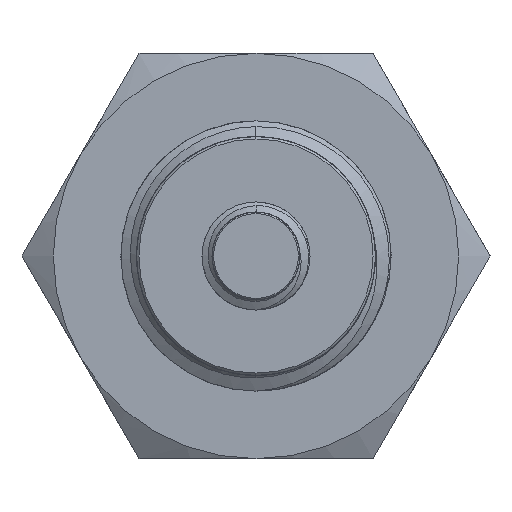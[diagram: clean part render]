
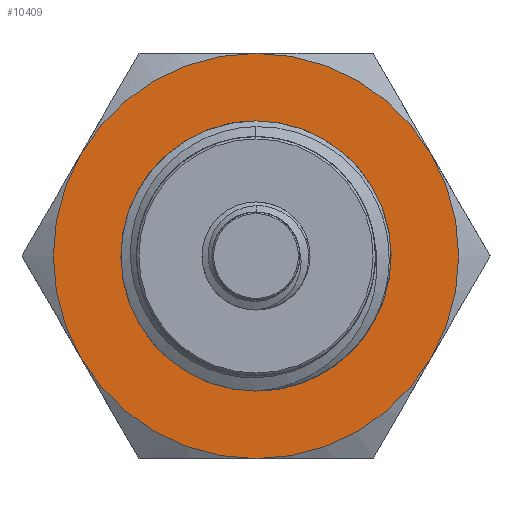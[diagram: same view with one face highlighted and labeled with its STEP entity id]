
A CAD part, left-side view. The second image highlights one B-rep face of the part: STEP entity #10409.
In plain terms, the highlighted planar face has unit normal (-1, 0, 0).
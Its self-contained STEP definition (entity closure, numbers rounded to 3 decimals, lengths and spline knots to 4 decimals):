
#3999 = CARTESIAN_POINT ( 'NONE',  ( -9.64, 0., 0. ) ) ;
#4005 = DIRECTION ( 'NONE',  ( 1., 0., 0. ) ) ;
#4006 = DIRECTION ( 'NONE',  ( 0., 0., -1. ) ) ;
#4009 = CARTESIAN_POINT ( 'NONE',  ( -9.64, 0., 0. ) ) ;
#4011 = CARTESIAN_POINT ( 'NONE',  ( -9.64, 0., 0. ) ) ;
#4012 = DIRECTION ( 'NONE',  ( 1., 0., 0. ) ) ;
#4013 = DIRECTION ( 'NONE',  ( 0., 0., -1. ) ) ;
#4014 = CARTESIAN_POINT ( 'NONE',  ( -9.64, 0., 0. ) ) ;
#4015 = DIRECTION ( 'NONE',  ( 1., 0., 0. ) ) ;
#4016 = DIRECTION ( 'NONE',  ( 0., 0., -1. ) ) ;
#4018 = DIRECTION ( 'NONE',  ( 1., 0., 0. ) ) ;
#4019 = DIRECTION ( 'NONE',  ( 0., 0., -1. ) ) ;
#4034 = CARTESIAN_POINT ( 'NONE',  ( -9.64, 0., 0. ) ) ;
#4035 = DIRECTION ( 'NONE',  ( 1., 0., 0. ) ) ;
#4036 = DIRECTION ( 'NONE',  ( 0., 0., -1. ) ) ;
#4046 = CARTESIAN_POINT ( 'NONE',  ( -9.64, 0., 0. ) ) ;
#4047 = DIRECTION ( 'NONE',  ( 1., 0., 0. ) ) ;
#4048 = DIRECTION ( 'NONE',  ( 0., 0., -1. ) ) ;
#4110 = CARTESIAN_POINT ( 'NONE',  ( -9.64, 0., 0. ) ) ;
#4116 = DIRECTION ( 'NONE',  ( 1., 0., 0. ) ) ;
#4117 = DIRECTION ( 'NONE',  ( 0., 0., -1. ) ) ;
#4676 = CIRCLE ( 'NONE', #13938, 0.3125 ) ;
#4679 = CIRCLE ( 'NONE', #13943, 0.4688 ) ;
#4680 = CIRCLE ( 'NONE', #13926, 0.4688 ) ;
#4681 = CIRCLE ( 'NONE', #13945, 0.4688 ) ;
#4682 = CIRCLE ( 'NONE', #13953, 0.3125 ) ;
#4683 = CIRCLE ( 'NONE', #13941, 0.4688 ) ;
#4699 = CIRCLE ( 'NONE', #13974, 0.4688 ) ;
#4968 = FACE_BOUND ( 'NONE', #24379, .T. ) ;
#4978 = FACE_OUTER_BOUND ( 'NONE', #24499, .T. ) ;
#9329 = EDGE_CURVE ( 'NONE', #26545, #26549, #10316, .T. ) ;
#9683 = EDGE_CURVE ( 'NONE', #26547, #26553, #4676, .T. ) ;
#9686 = EDGE_CURVE ( 'NONE', #26548, #26556, #4679, .T. ) ;
#9687 = EDGE_CURVE ( 'NONE', #26546, #26533, #4680, .T. ) ;
#9688 = EDGE_CURVE ( 'NONE', #26545, #26548, #4681, .T. ) ;
#9691 = EDGE_CURVE ( 'NONE', #26553, #26547, #4682, .T. ) ;
#9693 = EDGE_CURVE ( 'NONE', #26556, #26546, #4683, .T. ) ;
#9710 = EDGE_CURVE ( 'NONE', #26533, #26549, #4699, .T. ) ;
#9799 = AXIS2_PLACEMENT_3D ( 'NONE', #13503, #13500, #13466 ) ;
#10056 = ORIENTED_EDGE ( 'NONE', *, *, #9683, .T. ) ;
#10059 = ORIENTED_EDGE ( 'NONE', *, *, #9691, .T. ) ;
#10151 = ORIENTED_EDGE ( 'NONE', *, *, #9688, .F. ) ;
#10152 = ORIENTED_EDGE ( 'NONE', *, *, #9686, .F. ) ;
#10165 = ORIENTED_EDGE ( 'NONE', *, *, #9693, .F. ) ;
#10212 = ORIENTED_EDGE ( 'NONE', *, *, #9687, .F. ) ;
#10233 = ORIENTED_EDGE ( 'NONE', *, *, #9329, .T. ) ;
#10235 = ORIENTED_EDGE ( 'NONE', *, *, #9710, .F. ) ;
#10316 = CIRCLE ( 'NONE', #9799, 0.4688 ) ;
#10409 = ADVANCED_FACE ( 'NONE', ( #4968, #4978 ), #15229, .F. ) ;
#13466 = DIRECTION ( 'NONE',  ( 0., 0., 1. ) ) ;
#13500 = DIRECTION ( 'NONE',  ( -1., 0., 0. ) ) ;
#13503 = CARTESIAN_POINT ( 'NONE',  ( -9.64, 0., 0. ) ) ;
#13926 = AXIS2_PLACEMENT_3D ( 'NONE', #4014, #4015, #4016 ) ;
#13938 = AXIS2_PLACEMENT_3D ( 'NONE', #3999, #4005, #4006 ) ;
#13941 = AXIS2_PLACEMENT_3D ( 'NONE', #4046, #4047, #4048 ) ;
#13943 = AXIS2_PLACEMENT_3D ( 'NONE', #4011, #4012, #4013 ) ;
#13945 = AXIS2_PLACEMENT_3D ( 'NONE', #4009, #4018, #4019 ) ;
#13953 = AXIS2_PLACEMENT_3D ( 'NONE', #4034, #4035, #4036 ) ;
#13974 = AXIS2_PLACEMENT_3D ( 'NONE', #4110, #4116, #4117 ) ;
#14317 = AXIS2_PLACEMENT_3D ( 'NONE', #15228, #15231, #15232 ) ;
#15228 = CARTESIAN_POINT ( 'NONE',  ( -9.64, 0.2706, -0.4687 ) ) ;
#15229 = PLANE ( 'NONE',  #14317 ) ;
#15231 = DIRECTION ( 'NONE',  ( 1., 0., 0. ) ) ;
#15232 = DIRECTION ( 'NONE',  ( 0., 0., -1. ) ) ;
#18715 = CARTESIAN_POINT ( 'NONE',  ( -9.64, 0.4059, -0.2344 ) ) ;
#18727 = CARTESIAN_POINT ( 'NONE',  ( -9.64, 0., 0.4688 ) ) ;
#18728 = CARTESIAN_POINT ( 'NONE',  ( -9.64, 0., -0.4688 ) ) ;
#18729 = CARTESIAN_POINT ( 'NONE',  ( -9.64, 0., 0.3125 ) ) ;
#18730 = CARTESIAN_POINT ( 'NONE',  ( -9.64, -0.4059, 0.2344 ) ) ;
#18731 = CARTESIAN_POINT ( 'NONE',  ( -9.64, 0.4059, 0.2344 ) ) ;
#18735 = CARTESIAN_POINT ( 'NONE',  ( -9.64, 0., -0.3125 ) ) ;
#18738 = CARTESIAN_POINT ( 'NONE',  ( -9.64, -0.4059, -0.2344 ) ) ;
#24379 = EDGE_LOOP ( 'NONE', ( #10056, #10059 ) ) ;
#24499 = EDGE_LOOP ( 'NONE', ( #10212, #10165, #10152, #10151, #10233, #10235 ) ) ;
#26533 = VERTEX_POINT ( 'NONE', #18715 ) ;
#26545 = VERTEX_POINT ( 'NONE', #18727 ) ;
#26546 = VERTEX_POINT ( 'NONE', #18728 ) ;
#26547 = VERTEX_POINT ( 'NONE', #18729 ) ;
#26548 = VERTEX_POINT ( 'NONE', #18730 ) ;
#26549 = VERTEX_POINT ( 'NONE', #18731 ) ;
#26553 = VERTEX_POINT ( 'NONE', #18735 ) ;
#26556 = VERTEX_POINT ( 'NONE', #18738 ) ;
